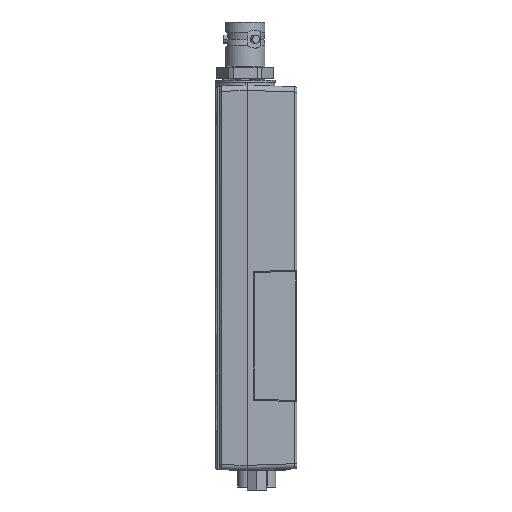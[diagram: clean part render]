
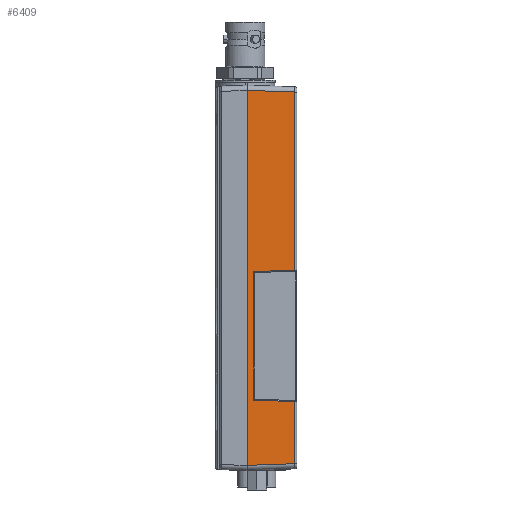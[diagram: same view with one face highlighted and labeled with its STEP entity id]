
A CAD part, left-side view. The second image highlights one B-rep face of the part: STEP entity #6409.
In plain terms, the highlighted planar face has unit normal (-0.999, -0.035, 0).
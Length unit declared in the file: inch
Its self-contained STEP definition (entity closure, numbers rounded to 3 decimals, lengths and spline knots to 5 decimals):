
#1302=CARTESIAN_POINT('',(0.01609,0.0193,
-0.06606));
#1309=DIRECTION('',(0.,0.,-1.));
#1310=VECTOR('',#1309,1.71962);
#1311=CARTESIAN_POINT('',(0.01609,0.0193,
-0.06606));
#1312=LINE('',#1311,#1310);
#1322=CARTESIAN_POINT('',(0.01609,0.0193,
-1.78568));
#1476=CARTESIAN_POINT('',(0.01609,0.0193,
-3.05432));
#1504=DIRECTION('',(0.,0.,-1.));
#1505=VECTOR('',#1504,0.59962);
#1506=CARTESIAN_POINT('',(0.01609,0.0193,
-3.05432));
#1507=LINE('',#1506,#1505);
#1526=CARTESIAN_POINT('',(0.01609,0.0193,
-3.65394));
#2246=CARTESIAN_POINT('',(0.,0.48,-3.67003));
#2248=DIRECTION('',(0.035,-0.999,0.035));
#2249=VECTOR('',#2248,0.46126);
#2250=CARTESIAN_POINT('',(0.,0.48,-3.67003));
#2251=LINE('',#2250,#2249);
#2252=DIRECTION('',(0.,0.,1.));
#2253=VECTOR('',#2252,3.62006);
#2254=CARTESIAN_POINT('',(0.,0.48,-3.67003));
#2255=LINE('',#2254,#2253);
#2269=DIRECTION('',(0.035,-0.999,0.035));
#2270=VECTOR('',#2269,0.39783);
#2271=CARTESIAN_POINT('',(0.00221,0.41665,
-1.79956));
#2272=LINE('',#2271,#2270);
#2297=DIRECTION('',(-0.035,0.999,0.035));
#2298=VECTOR('',#2297,0.39783);
#2299=CARTESIAN_POINT('',(0.01609,0.0193,
-3.05432));
#2300=LINE('',#2299,#2298);
#2305=DIRECTION('',(0.,0.,1.));
#2306=VECTOR('',#2305,1.24089);
#2307=CARTESIAN_POINT('',(0.00221,0.41665,
-3.04044));
#2308=LINE('',#2307,#2306);
#2350=DIRECTION('',(0.035,-0.999,-0.035));
#2351=VECTOR('',#2350,0.46126);
#2352=CARTESIAN_POINT('',(0.,0.48,-0.04997));
#2353=LINE('',#2352,#2351);
#2354=CARTESIAN_POINT('',(0.,0.48,-0.04997));
#3046=VERTEX_POINT('',#2354);
#3049=VERTEX_POINT('',#2246);
#3059=VERTEX_POINT('',#1526);
#3063=VERTEX_POINT('',#1302);
#3070=CARTESIAN_POINT('',(0.00221,0.41665,
-3.04044));
#3071=CARTESIAN_POINT('',(0.00221,0.41665,
-1.79956));
#3072=VERTEX_POINT('',#3070);
#3073=VERTEX_POINT('',#3071);
#3466=VERTEX_POINT('',#1476);
#3498=VERTEX_POINT('',#1322);
#6390=CARTESIAN_POINT('',(0.,0.48,-4.77241));
#6391=DIRECTION('',(-0.999,-0.035,0.));
#6392=DIRECTION('',(0.,0.,1.));
#6393=AXIS2_PLACEMENT_3D('',#6390,#6391,#6392);
#6394=PLANE('',#6393);
#6396=ORIENTED_EDGE('',*,*,#6395,.F.);
#6398=ORIENTED_EDGE('',*,*,#6397,.F.);
#6400=ORIENTED_EDGE('',*,*,#6399,.F.);
#6401=ORIENTED_EDGE('',*,*,#5262,.T.);
#6402=ORIENTED_EDGE('',*,*,#6385,.F.);
#6403=ORIENTED_EDGE('',*,*,#4619,.T.);
#6405=ORIENTED_EDGE('',*,*,#6404,.T.);
#6406=ORIENTED_EDGE('',*,*,#5022,.T.);
#6407=EDGE_LOOP('',(#6396,#6398,#6400,#6401,#6402,#6403,#6405,#6406));
#6408=FACE_OUTER_BOUND('',#6407,.F.);
#4619=EDGE_CURVE('',#3049,#3046,#2255,.T.);
#5022=EDGE_CURVE('',#3063,#3498,#1312,.T.);
#5262=EDGE_CURVE('',#3466,#3059,#1507,.T.);
#6385=EDGE_CURVE('',#3049,#3059,#2251,.T.);
#6395=EDGE_CURVE('',#3073,#3498,#2272,.T.);
#6397=EDGE_CURVE('',#3072,#3073,#2308,.T.);
#6399=EDGE_CURVE('',#3466,#3072,#2300,.T.);
#6404=EDGE_CURVE('',#3046,#3063,#2353,.T.);
#6409=ADVANCED_FACE('',(#6408),#6394,.T.);
